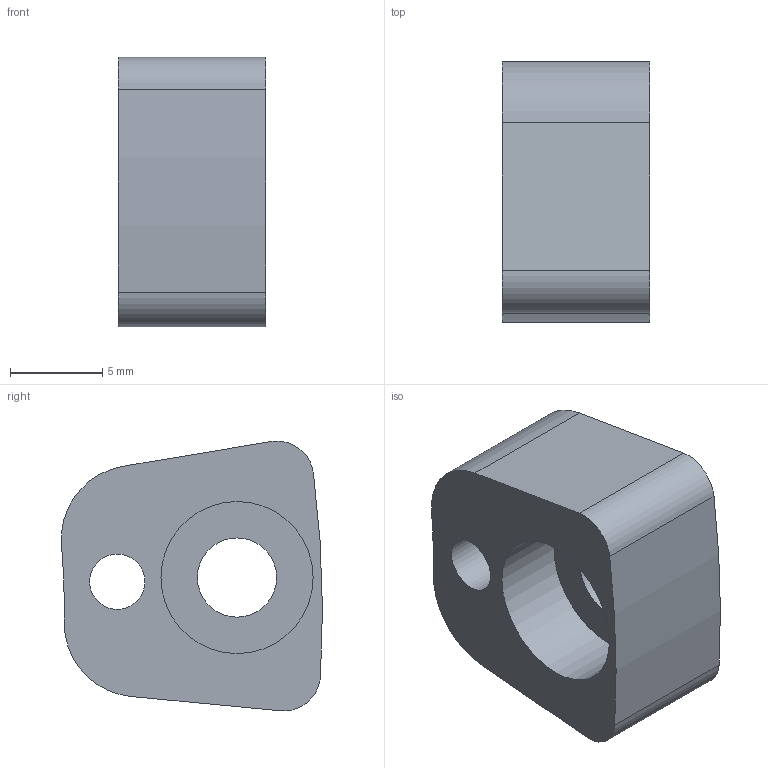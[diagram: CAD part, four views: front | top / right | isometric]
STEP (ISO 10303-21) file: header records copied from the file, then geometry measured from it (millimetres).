
FILE_DESCRIPTION(/* description */ ('STEP AP242 Edition 2','CAx-IF Rec.Pracs.---Representation and Presentation of Product Manufacturing Information (PMI)---4.0---2014-10-13','CAx-IF Rec.Pracs.---3D Tessellated Geometry---0.4---2014-09-14','2;1','CAx-IF Rec.Pracs.---User Defined Attributes---1.5---2016-08-15'),/* implementation_level */ '2;1');
FILE_NAME(/* name */ 'Assy_ForMFG - KD-D-105L_LHipYokeHardstopTooth',/* time_stamp */ '2026-05-15T19:56:33Z',/* author */ (''),/* organization */ (''),/* preprocessor_version */ 'ST-DEVELOPER v20',/* originating_system */ 'ONSHAPE BY PTC INC, 1.215',/* authorisation */ ' ');
FILE_SCHEMA (('AP242_MANAGED_MODEL_BASED_3D_ENGINEERING_MIM_LF { 1 0 10303 442 3 1 4 }'));
Length unit declared in the file: metre
Products named in the file (1): KD-D-105L_LHipYokeHardstopTooth
Bounding box: 8 x 14.15 x 14.63 mm (x, y, z)
Volume: 1104.3 mm3; surface area: 946.6 mm2
Topology: 1 solids, 1 shells, 14 faces, 33 edges, 22 vertices
Faces by surface type: cylinder 9, plane 5
Full cylindrical faces by diameter (mm): 3 x1, 4.3 x1, 8.25 x1
Entity records: 430 total; most frequent: DIRECTION 78, CARTESIAN_POINT 67, ORIENTED_EDGE 60, AXIS2_PLACEMENT_3D 33, EDGE_CURVE 30, VERTEX_POINT 22, EDGE_LOOP 22, FACE_BOUND 22
